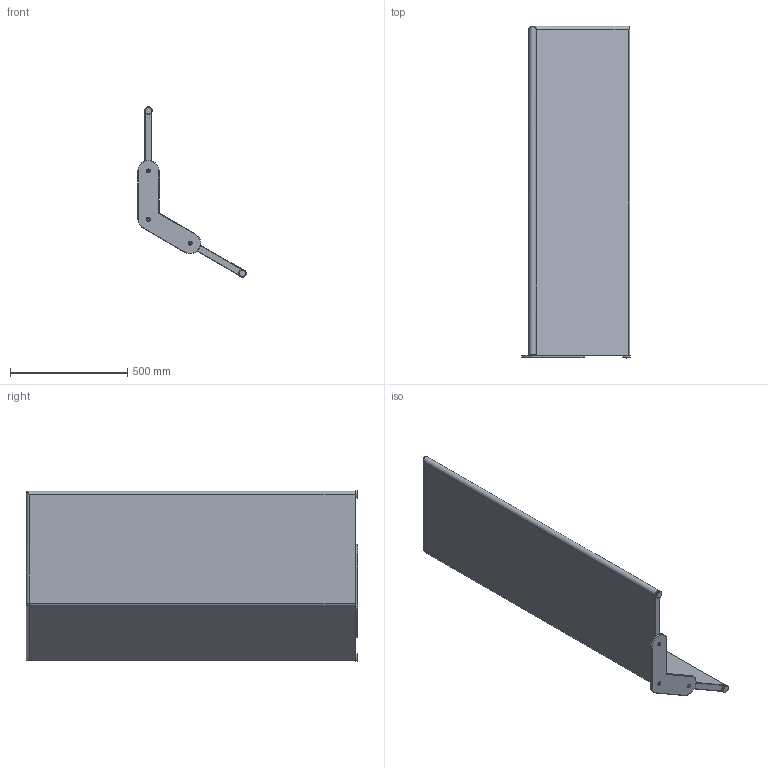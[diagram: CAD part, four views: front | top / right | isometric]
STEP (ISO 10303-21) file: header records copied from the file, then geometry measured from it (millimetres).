
FILE_DESCRIPTION (( 'STEP AP203' ), '1' );
FILE_NAME ('HEXA WALL 1400 NEW.STEP', '2020-03-30T11:45:42', ( '' ), ( '' ), 'SwSTEP 2.0', 'SolidWorks 2017', '' );
FILE_SCHEMA (( 'CONFIG_CONTROL_DESIGN' ));
Length unit declared in the file: millimetre
Products named in the file (1): HEXA WALL 1400 NEW
Bounding box: 460.93 x 1412 x 724.7 mm (x, y, z)
Volume: 40173104.6 mm3; surface area: 2864100.5 mm2
Topology: 4 solids, 4 shells, 98 faces, 212 edges, 118 vertices
Faces by surface type: cylinder 33, plane 25, cone 21, torus 13, bspline 5, sphere 1
Entity records: 2893 total; most frequent: CARTESIAN_POINT 697, DIRECTION 486, ORIENTED_EDGE 412, EDGE_CURVE 206, AXIS2_PLACEMENT_3D 197, VERTEX_POINT 118, EDGE_LOOP 106, CIRCLE 103
